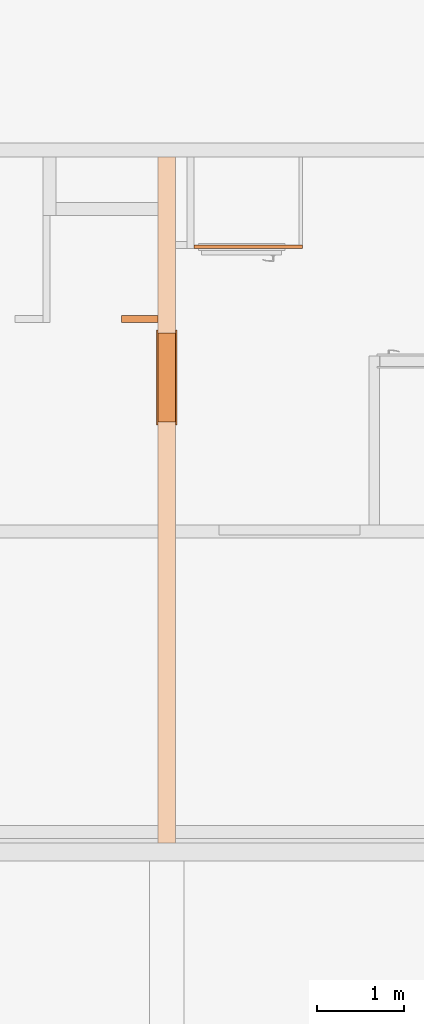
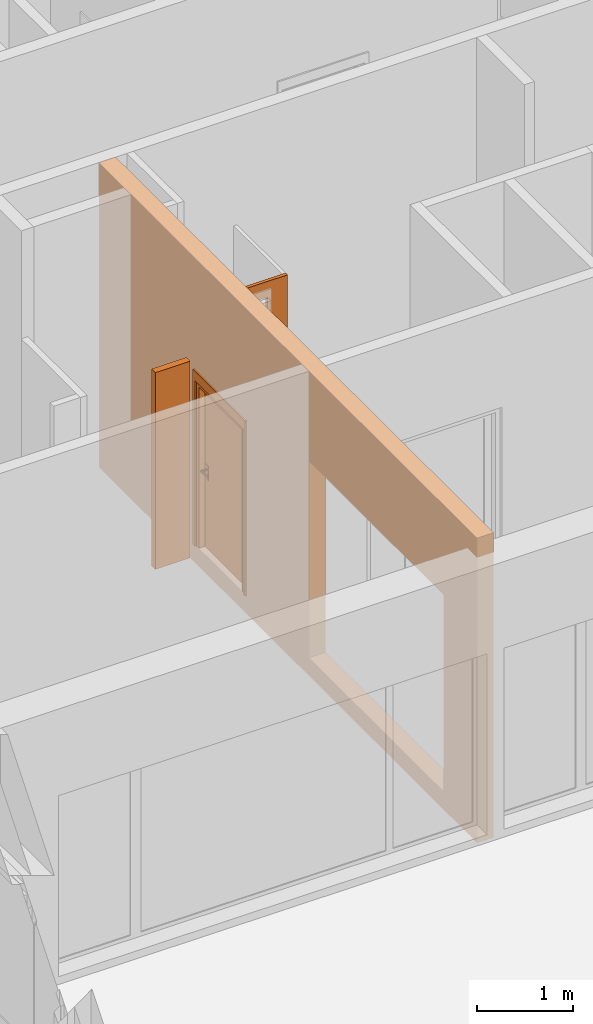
# One storey, part 34 of 46: 3 proxies, 3 openings, plus 1 element that does not belong to this part.
"""IFC2X3 building model written with IfcOpenShell, lengths in millimetres."""

from ifc_helpers import new_model, entity, si_unit, converted_unit, derived_unit, money_unit, direction, frame, origin_with_axes, origin_2d_with_axis, place, context, subcontext, project, spatial, rectangle, extrude, open_shell, faceted_brep, surface_model, material, type_object, element, fill, save


model = new_model("IFC2X3")

# Units and contexts
model_context = context("Model", 3, precision=0.01, world=origin_with_axes(), true_north=direction((0.34421633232, 0.938890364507)))
body_context = subcontext(model_context, "Body", "Model", "MODEL_VIEW")
ifc_project = project(units=[si_unit("LENGTHUNIT", "METRE", prefix="MILLI"), si_unit("AREAUNIT", "SQUARE_METRE"), si_unit("VOLUMEUNIT", "CUBIC_METRE"), converted_unit("PLANEANGLEUNIT", "DEGREE", entity("IfcPlaneAngleMeasure", 0.0174532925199), si_unit("PLANEANGLEUNIT", "RADIAN"), dimensions=[0, 0, 0, 0, 0, 0, 0]), si_unit("SOLIDANGLEUNIT", "STERADIAN"), money_unit("USD"), converted_unit("TIMEUNIT", "Year", entity("IfcTimeMeasure", 31556926.0), si_unit("TIMEUNIT", "SECOND"), dimensions=[0, 0, 1, 0, 0, 0, 0]), si_unit("MASSUNIT", "GRAM", prefix="KILO"), si_unit("THERMODYNAMICTEMPERATUREUNIT", "DEGREE_CELSIUS"), si_unit("LUMINOUSINTENSITYUNIT", "LUMEN"), si_unit("ENERGYUNIT", "JOULE", prefix="MEGA"), derived_unit("THERMALCONDUCTANCEUNIT", [(si_unit("POWERUNIT", "WATT"), 1), (si_unit("LENGTHUNIT", "METRE"), -1), (si_unit("THERMODYNAMICTEMPERATUREUNIT", "KELVIN"), -1)]), derived_unit("SPECIFICHEATCAPACITYUNIT", [(si_unit("ENERGYUNIT", "JOULE"), 1), (si_unit("MASSUNIT", "GRAM", prefix="KILO"), -1), (si_unit("THERMODYNAMICTEMPERATUREUNIT", "KELVIN"), -1)]), derived_unit("MASSDENSITYUNIT", [(si_unit("MASSUNIT", "GRAM", prefix="KILO"), 1), (si_unit("VOLUMEUNIT", "CUBIC_METRE"), -1)])], contexts=[model_context])

# Site, building, storey
site_placement = place(None, origin_with_axes())
site = spatial("IfcSite", under=ifc_project, at=site_placement, Name="USTRONIE MORSKIE", CompositionType="ELEMENT")
building_placement = place(site_placement, origin_with_axes())
building = spatial("IfcBuilding", under=site, at=building_placement, Name="Budynek", CompositionType="ELEMENT")
storey_placement = place(building_placement, origin_with_axes())
storey = spatial("IfcBuildingStorey", under=building, at=storey_placement, Name="PARTER", CompositionType="ELEMENT", Elevation=0.0)

# Proxy
ifc_material_1 = material(Name="Bloczki silikatowe")
building_element_proxy_type_1 = type_object("IfcBuildingElementProxyType", Name="Bloczki silikatowe 80", PredefinedType="NOTDEFINED")
proxy_1_placement = place(storey_placement, frame((373317.920919, 732811.199036, -229.999731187), z_axis=(0.0, 0.0, 1.0), x_axis=(-1.0, 0.0, 0.0)))
element("IfcBuildingElementProxy", 1, at=proxy_1_placement, inside=storey, type_object=building_element_proxy_type_1, material=ifc_material_1, Name="Œciana-007", context=body_context, shape_type="Brep", body=[
    faceted_brep([(100.0, 40.0, 0.0), (520.0, 40.0, 0.0), (520.0, -40.0, 0.0), (100.0, -40.0, 0.0), (100.0, 40.0, 2500.0), (520.0, 40.0, 2500.0), (520.0, -40.0, 2500.0), (100.0, -40.0, 2500.0)], [[[0, 1, 2, 3]], [[4, 5, 1, 0]], [[2, 1, 5, 6]], [[3, 2, 6, 7]], [[4, 0, 3, 7]], [[7, 6, 5, 4]]]),
])

# Proxies, openings
ifc_material_2 = material(Name="Beton konstrukcyjny B25")
building_element_proxy_type_2 = type_object("IfcBuildingElementProxyType", Name="Beton konstrukcyjny B25 200", PredefinedType="NOTDEFINED")
proxy_2_placement = place(storey_placement, frame((373317.920919, 726901.199036, -229.999731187), z_axis=(0.0, 0.0, 1.0), x_axis=(0.0, 1.0, 0.0)))
proxy_2 = element("IfcBuildingElementProxy", 2, at=proxy_2_placement, inside=storey, type_object=building_element_proxy_type_2, material=ifc_material_2, Name="SW-01", context=body_context, shape_type="Brep", body=[
    faceted_brep([(7770.0, -100.0, 3869.99973119), (7770.0, 100.0, 3869.99973119), (-100.0, 100.0, 3869.99973119), (-100.0, -100.0, 3869.99973119), (7770.0, -100.0, -8.38024999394e-06), (7770.0, 100.0, -8.38024999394e-06), (-100.0, 100.0, -0.000268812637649), (-100.0, -100.0, -0.000268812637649)], [[[0, 1, 2, 3]], [[4, 5, 1, 0]], [[5, 6, 2, 1]], [[6, 7, 3, 2]], [[4, 0, 3, 7]], [[5, 4, 7, 6]]]),
])
opening_1_placement = place(proxy_2_placement, frame((2000.0, 0.0, 229.999731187), z_axis=(0.0, 0.0, 1.0), x_axis=(1.0, 0.0, 0.0)))
element("IfcOpeningElement", 3, at=opening_1_placement, cuts=proxy_2, Name="xx", context=body_context, shape_type="SweptSolid", body=[
    extrude(rectangle(XDim=2800.0, YDim=2500.0, at=origin_2d_with_axis()), frame((0.0, 100.0, 1250.0), z_axis=(0.0, -1.0, 0.0), x_axis=(1.0, 0.0, 0.0)), (0.0, 0.0, -1.0), 200.0),
    extrude(rectangle(XDim=2800.0, YDim=2500.0, at=origin_2d_with_axis()), frame((0.0, 100.0, 1250.0), z_axis=(0.0, 1.0, 0.0), x_axis=(1.0, 0.0, 0.0)), (0.0, 0.0, -1.0), 200.0),
])
opening_2_placement = place(proxy_2_placement, frame((5240.0, 0.0, 229.999731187), z_axis=(0.0, 0.0, 1.0), x_axis=(1.0, 0.0, 0.0)))
opening_2 = element("IfcOpeningElement", 4, at=opening_2_placement, cuts=proxy_2, context=body_context, shape_type="SweptSolid", body=[
    extrude(rectangle(XDim=1020.0, YDim=2120.0, at=origin_2d_with_axis()), frame((0.0, -200.0, 1060.0), z_axis=(0.0, 1.0, 0.0), x_axis=(-1.0, 0.0, 0.0)), (0.0, 0.0, 1.0), 600.0),
    extrude(rectangle(XDim=1094.0, YDim=2227.0, at=origin_2d_with_axis()), frame((0.0, -100.0, 1113.5), z_axis=(0.0, 1.0, 0.0), x_axis=(-1.0, 0.0, 0.0)), (0.0, 0.0, -1.0), 200.0),
    extrude(rectangle(XDim=1094.0, YDim=2227.0, at=origin_2d_with_axis()), frame((0.0, 100.0, 1113.5), z_axis=(0.0, -1.0, 0.0), x_axis=(-1.0, 0.0, 0.0)), (0.0, 0.0, -1.0), 200.0),
])
building_element_proxy_type_3 = type_object("IfcBuildingElementProxyType", Name="Drzwi 23", PredefinedType="NOTDEFINED")
proxy_3_placement = place(opening_2_placement, frame((450.0, 0.0, 0.0), z_axis=(0.0, 0.0, 1.0), x_axis=(-1.0, 0.0, 0.0)))
proxy_3 = element("IfcBuildingElementProxy", 5, at=proxy_3_placement, inside=storey, type_object=building_element_proxy_type_3, context=body_context, shape_type="SurfaceModel", body=[
    faceted_brep([(-59.9999999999, 15.0, 0.0), (-59.9999999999, 100.0, 0.0), (-35.0, 100.0, 0.0), (-35.0, 15.0, 0.0), (-59.9999999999, 15.0, 2120.0), (-59.9999999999, 100.0, 2120.0), (-35.0, 100.0, 2095.0), (-35.0, 15.0, 2095.0)], [[[0, 1, 2, 3]], [[4, 5, 1, 0]], [[1, 5, 6, 2]], [[3, 2, 6, 7]], [[0, 3, 7, 4]], [[7, 6, 5, 4]]]),
    faceted_brep([(960.0, 15.0, 2120.0), (960.0, 100.0, 2120.0), (935.0, 100.0, 2095.0), (935.0, 15.0, 2095.0), (960.0, 15.0, 0.0), (960.0, 100.0, 0.0), (935.0, 100.0, 0.0), (935.0, 15.0, 0.0)], [[[0, 1, 2, 3]], [[4, 5, 1, 0]], [[1, 5, 6, 2]], [[3, 2, 6, 7]], [[0, 3, 7, 4]], [[7, 6, 5, 4]]]),
    faceted_brep([(-35.0, 15.0, 2095.0), (-35.0, 100.0, 2095.0), (935.0, 100.0, 2095.0), (935.0, 15.0, 2095.0), (-59.9999999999, 15.0, 2120.0), (-59.9999999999, 100.0, 2120.0), (960.0, 100.0, 2120.0), (960.0, 15.0, 2120.0)], [[[0, 1, 2, 3]], [[4, 5, 1, 0]], [[1, 5, 6, 2]], [[3, 2, 6, 7]], [[0, 3, 7, 4]], [[7, 6, 5, 4]]]),
    faceted_brep([(-97.0, 119.0, 0.0), (-46.9999999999, 119.0, 0.0), (-46.9999999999, 100.0, 0.0), (-97.0, 100.0, 0.0), (-97.0, 119.0, 2227.0), (-46.9999999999, 119.0, 2107.0), (-46.9999999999, 100.0, 2107.0), (-97.0, 100.0, 2227.0)], [[[0, 1, 2, 3]], [[0, 4, 5, 1]], [[1, 5, 6, 2]], [[3, 2, 6, 7]], [[4, 0, 3, 7]], [[5, 4, 7, 6]]]),
    faceted_brep([(997.0, 119.0, 2227.0), (947.0, 119.0, 2107.0), (947.0, 100.0, 2107.0), (997.0, 100.0, 2227.0), (997.0, 119.0, 0.0), (947.0, 119.0, 0.0), (947.0, 100.0, 0.0), (997.0, 100.0, 0.0)], [[[0, 1, 2, 3]], [[0, 4, 5, 1]], [[1, 5, 6, 2]], [[3, 2, 6, 7]], [[4, 0, 3, 7]], [[5, 4, 7, 6]]]),
    faceted_brep([(-97.0, 119.0, 2227.0), (-46.9999999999, 119.0, 2107.0), (-46.9999999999, 100.0, 2107.0), (-97.0, 100.0, 2227.0), (997.0, 119.0, 2227.0), (947.0, 119.0, 2107.0), (947.0, 100.0, 2107.0), (997.0, 100.0, 2227.0)], [[[0, 1, 2, 3]], [[0, 4, 5, 1]], [[1, 5, 6, 2]], [[3, 2, 6, 7]], [[4, 0, 3, 7]], [[5, 4, 7, 6]]]),
    faceted_brep([(-97.0, -119.0, 0.0), (-97.0, -100.0, 0.0), (-46.9999999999, -100.0, 0.0), (-46.9999999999, -119.0, 0.0), (-97.0, -119.0, 2227.0), (-97.0, -100.0, 2227.0), (-46.9999999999, -100.0, 2107.0), (-46.9999999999, -119.0, 2107.0)], [[[0, 1, 2, 3]], [[4, 5, 1, 0]], [[1, 5, 6, 2]], [[3, 2, 6, 7]], [[0, 3, 7, 4]], [[7, 6, 5, 4]]]),
    faceted_brep([(997.0, -119.0, 2227.0), (997.0, -100.0, 2227.0), (947.0, -100.0, 2107.0), (947.0, -119.0, 2107.0), (997.0, -119.0, 0.0), (997.0, -100.0, 0.0), (947.0, -100.0, 0.0), (947.0, -119.0, 0.0)], [[[0, 1, 2, 3]], [[4, 5, 1, 0]], [[1, 5, 6, 2]], [[3, 2, 6, 7]], [[0, 3, 7, 4]], [[7, 6, 5, 4]]]),
    faceted_brep([(-97.0, -119.0, 2227.0), (-97.0, -100.0, 2227.0), (-46.9999999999, -100.0, 2107.0), (-46.9999999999, -119.0, 2107.0), (997.0, -119.0, 2227.0), (997.0, -100.0, 2227.0), (947.0, -100.0, 2107.0), (947.0, -119.0, 2107.0)], [[[0, 1, 2, 3]], [[4, 5, 1, 0]], [[1, 5, 6, 2]], [[3, 2, 6, 7]], [[0, 3, 7, 4]], [[7, 6, 5, 4]]]),
    faceted_brep([(0.0, -25.0, 0.0), (0.0, -25.0, 2050.0), (0.0, -100.0, 2050.0), (0.0, -100.0, 0.0), (-11.9999999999, -25.0, 2050.0), (-11.9999999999, -25.0, 0.0), (-11.9999999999, 15.0, 2050.0), (-59.9999999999, 15.0, 2050.0), (-59.9999999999, -100.0, 2050.0), (-59.9999999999, -100.0, 0.0), (-59.9999999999, 15.0, 0.0), (-11.9999999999, 15.0, 0.0)], [[[0, 1, 2, 3]], [[4, 1, 0, 5]], [[4, 6, 7, 8, 2, 1]], [[3, 2, 8, 9]], [[5, 0, 3, 9, 10, 11]], [[6, 4, 5, 11]], [[6, 11, 10, 7]], [[10, 9, 8, 7]]]),
    faceted_brep([(912.0, -25.0, 2050.0), (900.0, -25.0, 2050.0), (900.0, -100.0, 2050.0), (960.0, -100.0, 2050.0), (960.0, 15.0, 2050.0), (912.0, 15.0, 2050.0), (912.0, -25.0, 0.0), (900.0, -25.0, 0.0), (900.0, -100.0, 0.0), (960.0, -100.0, 0.0), (960.0, 15.0, 0.0), (912.0, 15.0, 0.0)], [[[0, 1, 2, 3, 4, 5]], [[1, 0, 6, 7]], [[1, 7, 8, 2]], [[3, 2, 8, 9]], [[4, 3, 9, 10]], [[11, 5, 4, 10]], [[0, 5, 11, 6]], [[6, 11, 10, 9, 8, 7]]]),
    faceted_brep([(-11.9999999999, 15.0, 2062.0), (-11.9999999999, 15.0, 2050.0), (-59.9999999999, 15.0, 2050.0), (-59.9999999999, 15.0, 2120.0), (960.0, 15.0, 2120.0), (960.0, 15.0, 2050.0), (912.0, 15.0, 2050.0), (912.0, 15.0, 2062.0), (-11.9999999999, -25.0, 2062.0), (-11.9999999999, -25.0, 2050.0), (0.0, -25.0, 2050.0), (0.0, -100.0, 2050.0), (-59.9999999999, -100.0, 2050.0), (-59.9999999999, -100.0, 2120.0), (960.0, -100.0, 2120.0), (960.0, -100.0, 2050.0), (912.0, -25.0, 2050.0), (900.0, -100.0, 2050.0), (900.0, -25.0, 2050.0), (912.0, -25.0, 2062.0)], [[[0, 1, 2, 3, 4, 5, 6, 7]], [[1, 0, 8, 9]], [[9, 10, 11, 12, 2, 1]], [[2, 12, 13, 3]], [[3, 13, 14, 4]], [[4, 14, 15, 5]], [[16, 6, 5, 15, 17, 18]], [[7, 6, 16, 19]], [[0, 7, 19, 8]], [[16, 18, 10, 9, 8, 19]], [[10, 18, 17, 11]], [[17, 15, 14, 13, 12, 11]]]),
    faceted_brep([(9.5, -25.0, 1060.0), (9.5, -28.0, 1060.0), (66.5, -28.0, 1060.0), (66.5, -25.0, 1060.0), (9.5, -25.0, 870.0), (9.5, -28.0, 870.0), (66.5, -28.0, 870.0), (66.5, -25.0, 870.0)], [[[0, 1, 2, 3]], [[4, 5, 1, 0]], [[1, 5, 6, 2]], [[3, 2, 6, 7]], [[0, 3, 7, 4]], [[7, 6, 5, 4]]]),
    faceted_brep([(38.0, -88.9999999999, 990.0), (38.0, -95.9999999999, 990.0), (33.0, -95.9999999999, 991.339745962), (33.0, -88.9999999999, 991.339745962), (63.0000000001, -88.9999999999, 990.0), (63.0000000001, -95.9999999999, 990.0), (63.0000000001, -95.9999999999, 1010.0), (38.0, -95.9999999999, 1010.0), (33.0, -95.9999999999, 1008.66025404), (29.3397459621, -95.9999999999, 1005.0), (28.0, -95.9999999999, 1000.0), (29.3397459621, -95.9999999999, 995.0), (29.3397459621, -88.9999999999, 995.0), (28.0, -88.9999999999, 1000.0), (29.3397459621, -88.9999999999, 1005.0), (33.0, -88.9999999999, 1008.66025404), (38.0, -88.9999999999, 1010.0), (63.0000000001, -88.9999999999, 1010.0)], [[[0, 1, 2, 3]], [[4, 5, 1, 0]], [[1, 5, 6, 7, 8, 9, 10, 11, 2]], [[3, 2, 11, 12]], [[0, 3, 12, 13, 14, 15, 16, 17, 4]], [[17, 6, 5, 4]], [[16, 7, 6, 17]], [[15, 8, 7, 16]], [[14, 9, 8, 15]], [[13, 10, 9, 14]], [[12, 11, 10, 13]]]),
    surface_model("IfcShellBasedSurfaceModel", [(63.0000000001, -88.9999999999, 1010.0), (76.403909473, -95.9999999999, 1009.60730092), (76.0982828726, -88.9999999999, 1009.60730092), (63.0000000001, -95.9999999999, 1010.0), (103.109716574, -93.6635446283, 1008.82190275), (76.0982828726, -88.9999999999, 990.392699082), (63.0000000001, -88.9999999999, 990.0), (63.0000000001, -95.9999999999, 990.0), (76.403909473, -95.9999999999, 990.392699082), (103.109716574, -93.6635446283, 991.178097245), (102.195162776, -86.716818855, 1008.82190275), (102.195162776, -86.716818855, 991.178097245), (129.510264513, -89.0084157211, 991.963495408), (129.510264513, -89.0084157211, 1008.03650459), (127.993743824, -82.1678329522, 1008.03650459), (127.993743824, -82.1678329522, 991.963495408), (155.40462918, -82.0700416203, 992.748893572), (155.40462918, -82.0700416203, 1007.25110643), (153.297683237, -75.3876628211, 1007.25110643), (153.297683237, -75.3876628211, 992.748893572), (163.461204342, -79.1376880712, 993.0), (163.461204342, -79.1376880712, 1007.0), (161.170557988, -72.5221707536, 1007.0), (161.170557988, -72.5221707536, 993.0)], [open_shell([[[0, 1, 2]], [[0, 3, 1]], [[2, 1, 4]], [[0, 2, 5, 6]], [[3, 7, 8, 1]], [[1, 8, 9, 4]], [[2, 4, 10]], [[2, 10, 11, 5]], [[5, 7, 6]], [[5, 8, 7]], [[11, 9, 8]], [[4, 9, 12, 13]], [[10, 4, 13]], [[10, 14, 15, 11]], [[11, 8, 5]], [[15, 9, 11]], [[15, 12, 9]], [[13, 12, 16, 17]], [[10, 13, 14]], [[14, 18, 19, 15]], [[19, 12, 15]], [[19, 16, 12]], [[17, 16, 20, 21]], [[14, 13, 17]], [[14, 17, 18]], [[18, 22, 23, 19]], [[23, 16, 19]], [[23, 20, 16]], [[22, 21, 20, 23]], [[18, 17, 21]], [[18, 21, 22]]])]),
    faceted_brep([(48.3923048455, -38.0, 994.0), (49.2583302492, -28.0, 993.5), (51.0, -28.0, 1000.0), (50.0000000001, -38.0, 1000.0), (44.0000000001, -38.0, 989.607695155), (44.5000000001, -28.0, 988.741669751), (38.0, -28.0, 987.0), (31.5000000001, -28.0, 988.741669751), (26.7416697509, -28.0, 993.5), (25.0000000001, -28.0, 1000.0), (26.7416697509, -28.0, 1006.5), (31.5000000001, -28.0, 1011.25833025), (38.0, -28.0, 1013.0), (44.5000000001, -28.0, 1011.25833025), (49.2583302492, -28.0, 1006.5), (48.3923048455, -38.0, 1006.0), (44.0000000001, -38.0, 1010.39230485), (38.0, -38.0, 1012.0), (32.0, -38.0, 1010.39230485), (27.6076951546, -38.0, 1006.0), (26.0000000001, -38.0, 1000.0), (27.6076951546, -38.0, 994.0), (32.0, -38.0, 989.607695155), (38.0, -38.0, 988.0)], [[[0, 1, 2, 3]], [[4, 5, 1, 0]], [[2, 1, 5, 6, 7, 8, 9, 10, 11, 12, 13, 14]], [[3, 2, 14, 15]], [[3, 15, 16, 17, 18, 19, 20, 21, 22, 23, 4, 0]], [[23, 6, 5, 4]], [[22, 7, 6, 23]], [[21, 8, 7, 22]], [[20, 9, 8, 21]], [[19, 10, 9, 20]], [[18, 11, 10, 19]], [[17, 12, 11, 18]], [[16, 13, 12, 17]], [[15, 14, 13, 16]]]),
    faceted_brep([(55.3205080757, -32.0, 895.0), (57.0525588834, -28.0, 894.0), (60.0000000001, -28.0, 905.0), (58.0, -32.0, 905.0), (48.0, -32.0, 887.679491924), (49.0000000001, -28.0, 885.947441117), (38.0, -28.0, 883.0), (27.0, -28.0, 885.947441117), (18.9474411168, -28.0, 894.0), (16.0000000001, -28.0, 905.0), (18.9474411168, -28.0, 916.0), (27.0, -28.0, 924.052558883), (38.0, -28.0, 927.0), (49.0000000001, -28.0, 924.052558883), (57.0525588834, -28.0, 916.0), (55.3205080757, -32.0, 915.0), (48.0, -32.0, 922.320508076), (38.0, -32.0, 925.0), (28.0, -32.0, 922.320508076), (20.6794919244, -32.0, 915.0), (18.0, -32.0, 905.0), (20.6794919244, -32.0, 895.0), (28.0, -32.0, 887.679491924), (38.0, -32.0, 885.0)], [[[0, 1, 2, 3]], [[4, 5, 1, 0]], [[2, 1, 5, 6, 7, 8, 9, 10, 11, 12, 13, 14]], [[3, 2, 14, 15]], [[3, 15, 16, 17, 18, 19, 20, 21, 22, 23, 4, 0]], [[23, 6, 5, 4]], [[22, 7, 6, 23]], [[21, 8, 7, 22]], [[20, 9, 8, 21]], [[19, 10, 9, 20]], [[18, 11, 10, 19]], [[17, 12, 11, 18]], [[16, 13, 12, 17]], [[15, 14, 13, 16]]]),
    faceted_brep([(42.9497474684, -33.9999999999, 909.050252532), (43.6568542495, -32.0, 908.343145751), (46.0, -32.0, 914.0), (45.0000000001, -33.9999999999, 914.0), (38.0, -33.9999999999, 907.0), (38.0, -32.0, 906.0), (32.3431457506, -32.0, 908.343145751), (30.0000000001, -32.0, 914.0), (32.3431457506, -32.0, 919.656854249), (38.0, -32.0, 922.0), (43.6568542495, -32.0, 919.656854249), (42.9497474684, -33.9999999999, 918.949747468), (38.0, -33.9999999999, 921.0), (33.0502525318, -33.9999999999, 918.949747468), (31.0000000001, -33.9999999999, 914.0), (33.0502525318, -33.9999999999, 909.050252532)], [[[0, 1, 2, 3]], [[4, 5, 1, 0]], [[2, 1, 5, 6, 7, 8, 9, 10]], [[3, 2, 10, 11]], [[3, 11, 12, 13, 14, 15, 4, 0]], [[15, 6, 5, 4]], [[14, 7, 6, 15]], [[13, 8, 7, 14]], [[12, 9, 8, 13]], [[11, 10, 9, 12]]]),
    faceted_brep([(38.0, -38.0, 1010.0), (38.0, -88.9999999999, 1010.0), (43.0, -88.9999999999, 1008.66025404), (43.0, -38.0, 1008.66025404), (33.0, -38.0, 1008.66025404), (33.0, -88.9999999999, 1008.66025404), (29.3397459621, -88.9999999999, 1005.0), (28.0, -88.9999999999, 1000.0), (29.3397459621, -88.9999999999, 995.0), (33.0, -88.9999999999, 991.339745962), (38.0, -88.9999999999, 990.0), (43.0, -88.9999999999, 991.339745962), (46.6602540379, -88.9999999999, 995.0), (48.0, -88.9999999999, 1000.0), (46.6602540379, -88.9999999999, 1005.0), (46.6602540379, -38.0, 1005.0), (48.0, -38.0, 1000.0), (46.6602540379, -38.0, 995.0), (43.0, -38.0, 991.339745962), (38.0, -38.0, 990.0), (33.0, -38.0, 991.339745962), (29.3397459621, -38.0, 995.0), (28.0, -38.0, 1000.0), (29.3397459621, -38.0, 1005.0)], [[[0, 1, 2, 3]], [[4, 5, 1, 0]], [[1, 5, 6, 7, 8, 9, 10, 11, 12, 13, 14, 2]], [[3, 2, 14, 15]], [[0, 3, 15, 16, 17, 18, 19, 20, 21, 22, 23, 4]], [[23, 6, 5, 4]], [[22, 7, 6, 23]], [[21, 8, 7, 22]], [[20, 9, 8, 21]], [[19, 10, 9, 20]], [[18, 11, 10, 19]], [[17, 12, 11, 18]], [[16, 13, 12, 17]], [[15, 14, 13, 16]]]),
    faceted_brep([(9.5, 15.0, 1060.0), (66.5, 15.0, 1060.0), (66.5, 18.0, 1060.0), (9.5, 18.0, 1060.0), (9.5, 15.0, 870.0), (66.5, 15.0, 870.0), (66.5, 18.0, 870.0), (9.5, 18.0, 870.0)], [[[0, 1, 2, 3]], [[0, 4, 5, 1]], [[1, 5, 6, 2]], [[3, 2, 6, 7]], [[4, 0, 3, 7]], [[5, 4, 7, 6]]]),
    faceted_brep([(38.0, 79.0000000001, 990.0), (33.0, 79.0000000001, 991.339745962), (33.0, 86.0000000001, 991.339745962), (38.0, 86.0000000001, 990.0), (63.0000000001, 79.0000000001, 990.0), (63.0000000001, 79.0000000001, 1010.0), (38.0, 79.0000000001, 1010.0), (33.0, 79.0000000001, 1008.66025404), (29.3397459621, 79.0000000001, 1005.0), (28.0, 79.0000000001, 1000.0), (29.3397459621, 79.0000000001, 995.0), (29.3397459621, 86.0000000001, 995.0), (28.0, 86.0000000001, 1000.0), (29.3397459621, 86.0000000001, 1005.0), (33.0, 86.0000000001, 1008.66025404), (38.0, 86.0000000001, 1010.0), (63.0000000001, 86.0000000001, 1010.0), (63.0000000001, 86.0000000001, 990.0)], [[[0, 1, 2, 3]], [[0, 4, 5, 6, 7, 8, 9, 10, 1]], [[1, 10, 11, 2]], [[3, 2, 11, 12, 13, 14, 15, 16, 17]], [[4, 0, 3, 17]], [[5, 4, 17, 16]], [[6, 5, 16, 15]], [[7, 6, 15, 14]], [[8, 7, 14, 13]], [[9, 8, 13, 12]], [[10, 9, 12, 11]]]),
    surface_model("IfcShellBasedSurfaceModel", [(63.0000000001, 79.0000000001, 1010.0), (76.0982828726, 79.0000000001, 1009.60730092), (76.403909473, 86.0000000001, 1009.60730092), (63.0000000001, 79.0000000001, 990.0), (76.0982828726, 79.0000000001, 990.392699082), (103.109716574, 83.6635446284, 1008.82190275), (63.0000000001, 86.0000000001, 1010.0), (63.0000000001, 86.0000000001, 990.0), (102.195162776, 76.7168188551, 991.178097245), (102.195162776, 76.7168188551, 1008.82190275), (103.109716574, 83.6635446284, 991.178097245), (76.403909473, 86.0000000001, 990.392699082), (127.993743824, 72.1678329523, 991.963495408), (127.993743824, 72.1678329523, 1008.03650459), (129.510264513, 79.0084157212, 1008.03650459), (129.510264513, 79.0084157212, 991.963495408), (153.297683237, 65.3876628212, 992.748893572), (153.297683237, 65.3876628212, 1007.25110643), (155.40462918, 72.0700416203, 1007.25110643), (155.40462918, 72.0700416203, 992.748893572), (161.170557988, 62.5221707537, 993.0), (161.170557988, 62.5221707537, 1007.0), (163.461204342, 69.1376880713, 1007.0), (163.461204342, 69.1376880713, 993.0)], [open_shell([[[0, 1, 2]], [[0, 3, 4, 1]], [[1, 5, 2]], [[0, 2, 6]], [[4, 3, 7]], [[1, 4, 8, 9]], [[1, 9, 5]], [[2, 5, 10, 11]], [[6, 2, 11, 7]], [[4, 7, 11]], [[8, 4, 11]], [[9, 8, 12, 13]], [[9, 14, 5]], [[5, 14, 15, 10]], [[8, 11, 10]], [[12, 8, 10]], [[13, 12, 16, 17]], [[9, 13, 14]], [[14, 18, 19, 15]], [[12, 10, 15]], [[16, 12, 15]], [[17, 16, 20, 21]], [[13, 17, 18]], [[13, 18, 14]], [[18, 22, 23, 19]], [[16, 15, 19]], [[20, 16, 19]], [[21, 20, 23, 22]], [[17, 21, 22]], [[17, 22, 18]], [[20, 19, 23]]])]),
    faceted_brep([(48.3923048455, 28.0, 994.0), (50.0000000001, 28.0, 1000.0), (51.0, 18.0, 1000.0), (49.2583302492, 18.0, 993.5), (44.0000000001, 28.0, 989.607695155), (38.0, 28.0, 988.0), (32.0, 28.0, 989.607695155), (27.6076951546, 28.0, 994.0), (26.0000000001, 28.0, 1000.0), (27.6076951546, 28.0, 1006.0), (32.0, 28.0, 1010.39230485), (38.0, 28.0, 1012.0), (44.0000000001, 28.0, 1010.39230485), (48.3923048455, 28.0, 1006.0), (49.2583302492, 18.0, 1006.5), (44.5000000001, 18.0, 1011.25833025), (38.0, 18.0, 1013.0), (31.5000000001, 18.0, 1011.25833025), (26.7416697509, 18.0, 1006.5), (25.0000000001, 18.0, 1000.0), (26.7416697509, 18.0, 993.5), (31.5000000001, 18.0, 988.741669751), (38.0, 18.0, 987.0), (44.5000000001, 18.0, 988.741669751)], [[[0, 1, 2, 3]], [[1, 0, 4, 5, 6, 7, 8, 9, 10, 11, 12, 13]], [[1, 13, 14, 2]], [[2, 14, 15, 16, 17, 18, 19, 20, 21, 22, 23, 3]], [[4, 0, 3, 23]], [[5, 4, 23, 22]], [[6, 5, 22, 21]], [[7, 6, 21, 20]], [[8, 7, 20, 19]], [[9, 8, 19, 18]], [[10, 9, 18, 17]], [[11, 10, 17, 16]], [[12, 11, 16, 15]], [[13, 12, 15, 14]]]),
    faceted_brep([(55.3205080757, 22.0, 895.0), (58.0, 22.0, 905.0), (60.0000000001, 18.0, 905.0), (57.0525588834, 18.0, 894.0), (48.0, 22.0, 887.679491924), (38.0, 22.0, 885.0), (28.0, 22.0, 887.679491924), (20.6794919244, 22.0, 895.0), (18.0, 22.0, 905.0), (20.6794919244, 22.0, 915.0), (28.0, 22.0, 922.320508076), (38.0, 22.0, 925.0), (48.0, 22.0, 922.320508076), (55.3205080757, 22.0, 915.0), (57.0525588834, 18.0, 916.0), (49.0000000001, 18.0, 924.052558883), (38.0, 18.0, 927.0), (27.0, 18.0, 924.052558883), (18.9474411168, 18.0, 916.0), (16.0000000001, 18.0, 905.0), (18.9474411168, 18.0, 894.0), (27.0, 18.0, 885.947441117), (38.0, 18.0, 883.0), (49.0000000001, 18.0, 885.947441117)], [[[0, 1, 2, 3]], [[1, 0, 4, 5, 6, 7, 8, 9, 10, 11, 12, 13]], [[1, 13, 14, 2]], [[2, 14, 15, 16, 17, 18, 19, 20, 21, 22, 23, 3]], [[4, 0, 3, 23]], [[5, 4, 23, 22]], [[6, 5, 22, 21]], [[7, 6, 21, 20]], [[8, 7, 20, 19]], [[9, 8, 19, 18]], [[10, 9, 18, 17]], [[11, 10, 17, 16]], [[12, 11, 16, 15]], [[13, 12, 15, 14]]]),
    faceted_brep([(42.9497474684, 24.0000000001, 909.050252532), (45.0000000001, 24.0000000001, 914.0), (46.0, 22.0, 914.0), (43.6568542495, 22.0, 908.343145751), (38.0, 24.0000000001, 907.0), (33.0502525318, 24.0000000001, 909.050252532), (31.0000000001, 24.0000000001, 914.0), (33.0502525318, 24.0000000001, 918.949747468), (38.0, 24.0000000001, 921.0), (42.9497474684, 24.0000000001, 918.949747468), (43.6568542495, 22.0, 919.656854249), (38.0, 22.0, 922.0), (32.3431457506, 22.0, 919.656854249), (30.0000000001, 22.0, 914.0), (32.3431457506, 22.0, 908.343145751), (38.0, 22.0, 906.0)], [[[0, 1, 2, 3]], [[1, 0, 4, 5, 6, 7, 8, 9]], [[1, 9, 10, 2]], [[2, 10, 11, 12, 13, 14, 15, 3]], [[4, 0, 3, 15]], [[5, 4, 15, 14]], [[6, 5, 14, 13]], [[7, 6, 13, 12]], [[8, 7, 12, 11]], [[9, 8, 11, 10]]]),
    faceted_brep([(38.0, 28.0, 1010.0), (43.0, 28.0, 1008.66025404), (43.0, 79.0000000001, 1008.66025404), (38.0, 79.0000000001, 1010.0), (33.0, 28.0, 1008.66025404), (29.3397459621, 28.0, 1005.0), (28.0, 28.0, 1000.0), (29.3397459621, 28.0, 995.0), (33.0, 28.0, 991.339745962), (38.0, 28.0, 990.0), (43.0, 28.0, 991.339745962), (46.6602540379, 28.0, 995.0), (48.0, 28.0, 1000.0), (46.6602540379, 28.0, 1005.0), (46.6602540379, 79.0000000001, 1005.0), (48.0, 79.0000000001, 1000.0), (46.6602540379, 79.0000000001, 995.0), (43.0, 79.0000000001, 991.339745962), (38.0, 79.0000000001, 990.0), (33.0, 79.0000000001, 991.339745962), (29.3397459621, 79.0000000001, 995.0), (28.0, 79.0000000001, 1000.0), (29.3397459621, 79.0000000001, 1005.0), (33.0, 79.0000000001, 1008.66025404)], [[[0, 1, 2, 3]], [[0, 4, 5, 6, 7, 8, 9, 10, 11, 12, 13, 1]], [[1, 13, 14, 2]], [[3, 2, 14, 15, 16, 17, 18, 19, 20, 21, 22, 23]], [[4, 0, 3, 23]], [[5, 4, 23, 22]], [[6, 5, 22, 21]], [[7, 6, 21, 20]], [[8, 7, 20, 19]], [[9, 8, 19, 18]], [[10, 9, 18, 17]], [[11, 10, 17, 16]], [[12, 11, 16, 15]], [[13, 12, 15, 14]]]),
    faceted_brep([(912.0, 15.0, 0.0), (912.0, -25.0, 0.0), (-11.9999999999, -25.0, 0.0), (-11.9999999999, 15.0, 0.0), (912.0, 15.0, 2062.0), (912.0, -25.0, 2062.0), (-11.9999999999, -25.0, 2062.0), (-11.9999999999, 15.0, 2062.0)], [[[0, 1, 2, 3]], [[4, 5, 1, 0]], [[1, 5, 6, 2]], [[3, 2, 6, 7]], [[0, 3, 7, 4]], [[7, 6, 5, 4]]]),
])
fill(opening_2, proxy_3)

# Proxy, opening
building_element_proxy_type_4 = type_object("IfcBuildingElementProxyType", Name="Bloczki silikatowe 40", PredefinedType="NOTDEFINED")
proxy_4_placement = place(storey_placement, frame((373632.920919, 733641.199036, -230.0), z_axis=(0.0, 0.0, 1.0), x_axis=(1.0, 0.0, 0.0)))
proxy_4 = element("IfcBuildingElementProxy", 6, at=proxy_4_placement, inside=storey, type_object=building_element_proxy_type_4, material=ifc_material_1, Name="Œciana-007", context=body_context, shape_type="Brep", body=[
    faceted_brep([(1245.0, 20.0, 0.0), (1245.0, -20.0, 0.0), (0.0, -20.0, 0.0), (0.0, 20.0, 0.0), (1245.0, 20.0, 2500.0), (1245.0, -20.0, 2500.0), (0.0, -20.0, 2500.0), (0.0, 20.0, 2500.0)], [[[0, 1, 2, 3]], [[1, 0, 4, 5]], [[1, 5, 6, 2]], [[7, 3, 2, 6]], [[4, 0, 3, 7]], [[5, 4, 7, 6]]]),
])
opening_3_placement = place(proxy_4_placement, frame((545.0, 0.0, 230.0), z_axis=(0.0, 0.0, 1.0), x_axis=(1.0, 0.0, 0.0)))
element("IfcOpeningElement", 7, at=opening_3_placement, cuts=proxy_4, Name="Syst.", context=body_context, shape_type="SweptSolid", body=[
    extrude(rectangle(XDim=920.0, YDim=2070.0, at=origin_2d_with_axis()), frame((0.0, -40.0, 1035.0), z_axis=(0.0, 1.0, 0.0), x_axis=(-1.0, 0.0, 0.0)), (0.0, 0.0, 1.0), 120.0),
    extrude(rectangle(XDim=994.0, YDim=2177.0, at=origin_2d_with_axis()), frame((0.0, -20.0, 1088.5), z_axis=(0.0, 1.0, 0.0), x_axis=(-1.0, 0.0, 0.0)), (0.0, 0.0, -1.0), 40.0),
    extrude(rectangle(XDim=994.0, YDim=2177.0, at=origin_2d_with_axis()), frame((0.0, 20.0, 1088.5), z_axis=(0.0, -1.0, 0.0), x_axis=(-1.0, 0.0, 0.0)), (0.0, 0.0, -1.0), 40.0),
])

save(model, "model.ifc")
